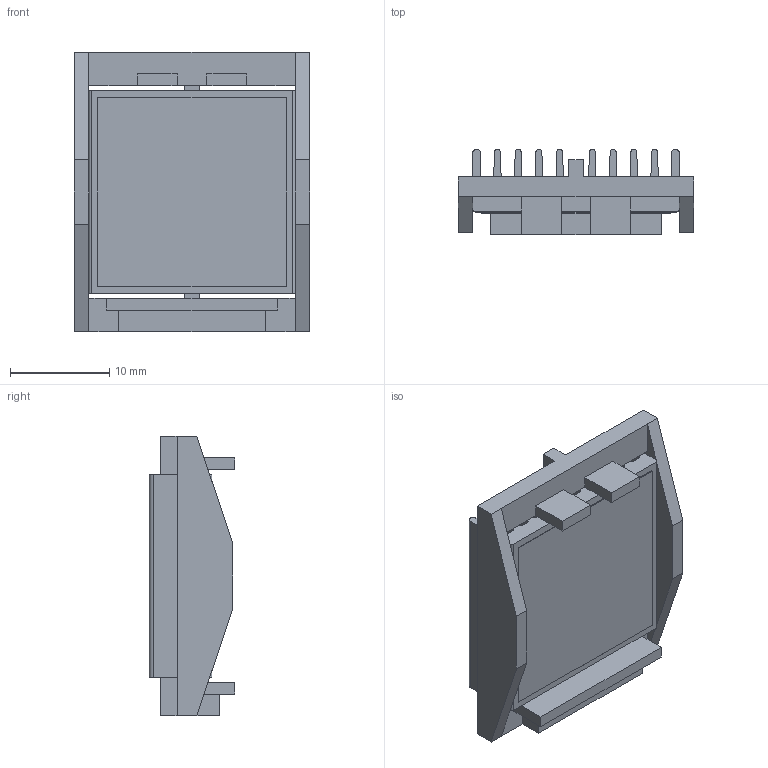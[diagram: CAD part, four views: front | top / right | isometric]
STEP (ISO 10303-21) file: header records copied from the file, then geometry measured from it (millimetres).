
FILE_DESCRIPTION (( 'STEP AP214' ), '1' );
FILE_NAME ('INL21001-6-1.7Y.STEP', '2023-02-21T16:15:21', ( '' ), ( '' ), 'SwSTEP 2.0', 'SolidWorks 2020', '' );
FILE_SCHEMA (( 'AUTOMOTIVE_DESIGN' ));
Length unit declared in the file: millimetre
Products named in the file (1): INL21001-6-1.7Y
Bounding box: 23.7 x 8.6 x 28.1 mm (x, y, z)
Volume: 2338.4 mm3; surface area: 5015.7 mm2
Topology: 3 solids, 3 shells, 116 faces, 332 edges, 220 vertices
Faces by surface type: plane 86, cylinder 30
Entity records: 5096 total; most frequent: CARTESIAN_POINT 669, ORIENTED_EDGE 664, DIRECTION 626, EDGE_CURVE 332, LINE 272, VECTOR 272, VERTEX_POINT 220, AXIS2_PLACEMENT_3D 177
